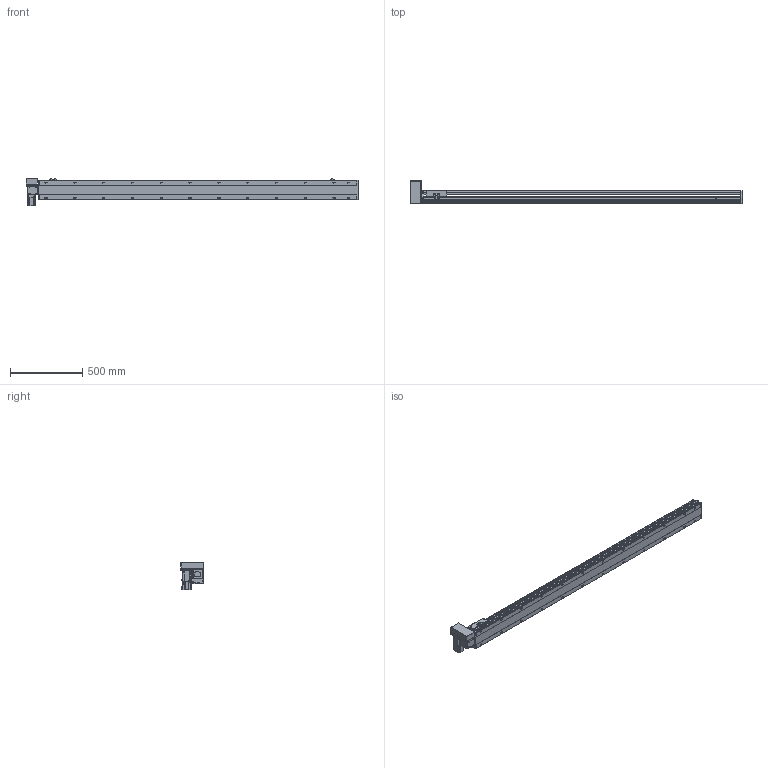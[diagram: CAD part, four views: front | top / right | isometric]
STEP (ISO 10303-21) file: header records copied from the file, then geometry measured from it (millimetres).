
FILE_DESCRIPTION(/* description */ ('STEP AP214'),/* implementation_level */ '2;1');
FILE_NAME(/* name */ 'PBS140S-P40-S1950-RU-T40-C1-N(0)',/* time_stamp */ '2022-06-09T02:56:11+02:00',/* author */ ('License CC BY-ND 4.0'),/* organization */ ('CADENAS'),/* preprocessor_version */ 'ST-DEVELOPER v18.102',/* originating_system */ 'PARTsolutions',/* authorisation */ ' ');
FILE_SCHEMA (('AUTOMOTIVE_DESIGN {1 0 10303 214 3 1 1}'));
Length unit declared in the file: millimetre
Products named in the file (7): PBS140S-P40-S1950-RU-T40-C1-N(0); PBS140S_sensor; PBS140S_plant; PBS140S_sliser; T40-p1; PBS140ST-RU_motors; PBS140S-S1950()_body
Assembly tree (8 placements, depth 2):
  PBS140S-P40-S1950-RU-T40-C1-N(0)
    PBS140S_sensor  x3
    PBS140S_plant
    PBS140S_sliser
    T40-p1
    PBS140ST-RU_motors
    PBS140S-S1950()_body
Bounding box: 2304 x 162.5 x 189.7 mm (x, y, z)
Volume: 11364875.7 mm3; surface area: 1927254.1 mm2
Topology: 8 solids, 8 shells, 1163 faces, 3071 edges, 2009 vertices
Faces by surface type: plane 726, cylinder 377, cone 50, sphere 8, torus 2
Full cylindrical faces by diameter (mm): 3.242 x4, 4 x2, 4.134 x4, 4.4 x8, 4.5 x2, 4.8 x4, 4.917 x32, 5.5 x7, 6 x2, 7 x26, 7.5 x8, 8 x12, 8.5 x4, 10.5 x24, 14 x1, 30 x2, 50 x2
Entity records: 33328 total; most frequent: CARTESIAN_POINT 6264, DIRECTION 5628, ORIENTED_EDGE 5302, EDGE_CURVE 2651, AXIS2_PLACEMENT_3D 1979, VERTEX_POINT 1849, LINE 1670, VECTOR 1670
